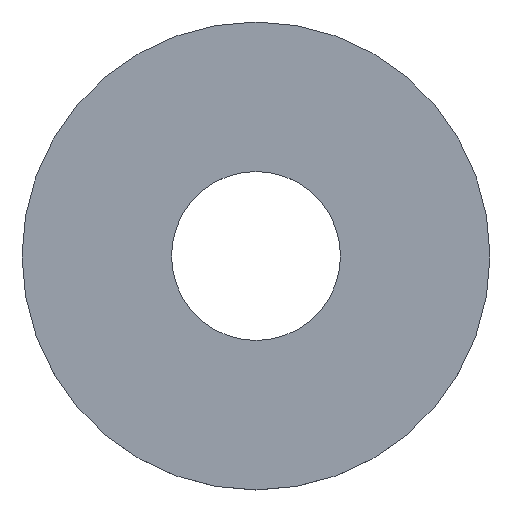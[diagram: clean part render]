
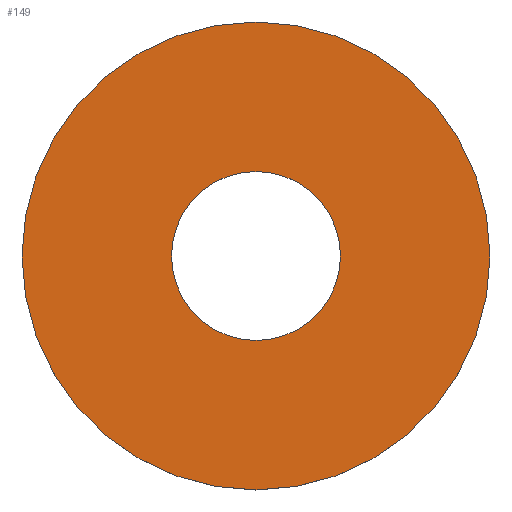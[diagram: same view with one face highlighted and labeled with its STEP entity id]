
A CAD part, top view. The second image highlights one B-rep face of the part: STEP entity #149.
In plain terms, the highlighted planar face has unit normal (0, 0, 1).
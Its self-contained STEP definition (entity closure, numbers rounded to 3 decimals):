
#13 = CIRCLE ( 'NONE', #118, 6.5 ) ;
#16 = AXIS2_PLACEMENT_3D ( 'NONE', #81, #169, #18 ) ;
#18 = DIRECTION ( 'NONE',  ( 1., 0., 0. ) ) ;
#20 = FACE_OUTER_BOUND ( 'NONE', #234, .T. ) ;
#21 = EDGE_CURVE ( 'NONE', #29, #201, #121, .T. ) ;
#22 = DIRECTION ( 'NONE',  ( 1., 0., 0. ) ) ;
#24 = ORIENTED_EDGE ( 'NONE', *, *, #21, .T. ) ;
#26 = DIRECTION ( 'NONE',  ( 1., 0., 0. ) ) ;
#29 = VERTEX_POINT ( 'NONE', #141 ) ;
#42 = CARTESIAN_POINT ( 'NONE',  ( -6.5, 0., 1. ) ) ;
#53 = FACE_BOUND ( 'NONE', #174, .T. ) ;
#55 = EDGE_CURVE ( 'NONE', #126, #138, #13, .T. ) ;
#62 = CARTESIAN_POINT ( 'NONE',  ( 18., 0., 1. ) ) ;
#81 = CARTESIAN_POINT ( 'NONE',  ( 0., 0., 1. ) ) ;
#85 = DIRECTION ( 'NONE',  ( 0., 0., 1. ) ) ;
#88 = EDGE_CURVE ( 'NONE', #201, #29, #167, .T. ) ;
#93 = AXIS2_PLACEMENT_3D ( 'NONE', #235, #140, #216 ) ;
#97 = EDGE_CURVE ( 'NONE', #138, #126, #196, .T. ) ;
#102 = AXIS2_PLACEMENT_3D ( 'NONE', #245, #135, #26 ) ;
#107 = ORIENTED_EDGE ( 'NONE', *, *, #97, .F. ) ;
#113 = DIRECTION ( 'NONE',  ( 0., 0., 1. ) ) ;
#118 = AXIS2_PLACEMENT_3D ( 'NONE', #204, #113, #155 ) ;
#121 = CIRCLE ( 'NONE', #102, 18. ) ;
#122 = ORIENTED_EDGE ( 'NONE', *, *, #55, .F. ) ;
#126 = VERTEX_POINT ( 'NONE', #220 ) ;
#135 = DIRECTION ( 'NONE',  ( 0., 0., 1. ) ) ;
#138 = VERTEX_POINT ( 'NONE', #42 ) ;
#140 = DIRECTION ( 'NONE',  ( 0., 0., 1. ) ) ;
#141 = CARTESIAN_POINT ( 'NONE',  ( -18., 0., 1. ) ) ;
#142 = AXIS2_PLACEMENT_3D ( 'NONE', #168, #85, #22 ) ;
#149 = ADVANCED_FACE ( 'NONE', ( #20, #53 ), #182, .T. ) ;
#155 = DIRECTION ( 'NONE',  ( 1., 0., 0. ) ) ;
#167 = CIRCLE ( 'NONE', #16, 18. ) ;
#168 = CARTESIAN_POINT ( 'NONE',  ( 0., 0., 1. ) ) ;
#169 = DIRECTION ( 'NONE',  ( 0., 0., 1. ) ) ;
#174 = EDGE_LOOP ( 'NONE', ( #107, #122 ) ) ;
#182 = PLANE ( 'NONE',  #93 ) ;
#196 = CIRCLE ( 'NONE', #142, 6.5 ) ;
#201 = VERTEX_POINT ( 'NONE', #62 ) ;
#204 = CARTESIAN_POINT ( 'NONE',  ( 0., 0., 1. ) ) ;
#216 = DIRECTION ( 'NONE',  ( 1., 0., 0. ) ) ;
#220 = CARTESIAN_POINT ( 'NONE',  ( 6.5, 0., 1. ) ) ;
#221 = ORIENTED_EDGE ( 'NONE', *, *, #88, .T. ) ;
#234 = EDGE_LOOP ( 'NONE', ( #24, #221 ) ) ;
#235 = CARTESIAN_POINT ( 'NONE',  ( 0., 0., 1. ) ) ;
#245 = CARTESIAN_POINT ( 'NONE',  ( 0., 0., 1. ) ) ;
